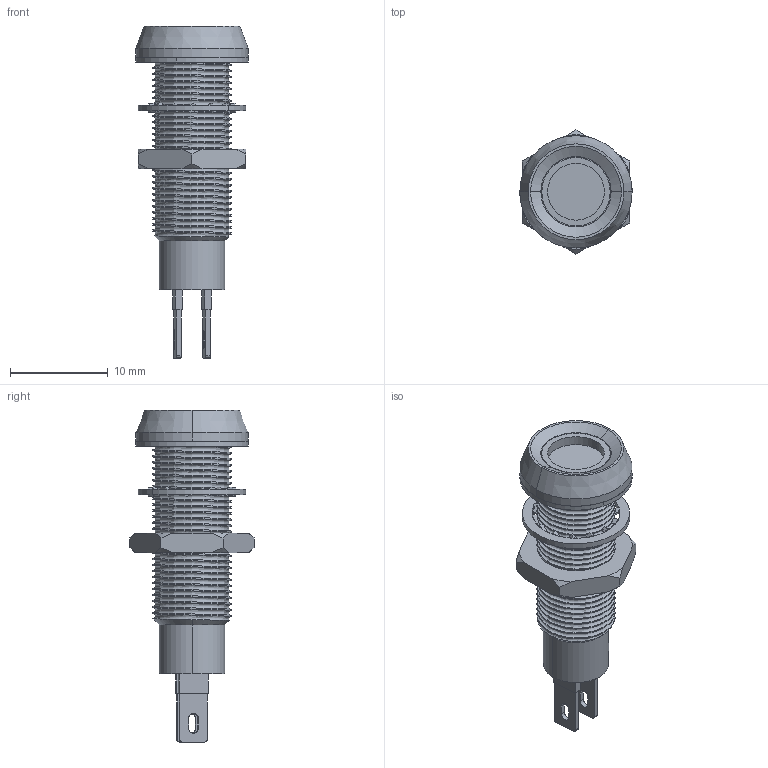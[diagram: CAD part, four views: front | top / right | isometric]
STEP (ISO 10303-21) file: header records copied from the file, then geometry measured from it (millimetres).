
FILE_DESCRIPTION (( 'STEP AP203' ), '1' );
FILE_NAME ('508 series.STEP', '2014-07-02T07:14:31', ( 'mark' ), ( '' ), 'SwSTEP 2.0', 'SolidWorks 2014', '' );
FILE_SCHEMA (( 'CONFIG_CONTROL_DESIGN' ));
Length unit declared in the file: millimetre
Products named in the file (8): com3324_tab missing; 508 series; COM2212; COM2236; COM3564_Threaded; COM3577; 7fs; PU1
Assembly tree (7 placements, depth 2):
  508 series
    COM2212
    COM2236
    COM3564_Threaded
    COM3577
    7fs
    PU1
    com3324_tab missing
Bounding box: 11.5 x 12.7 x 33.98 mm (x, y, z)
Volume: 736.7 mm3; surface area: 2368.6 mm2
Topology: 8 solids, 8 shells, 370 faces, 1032 edges, 684 vertices
Faces by surface type: plane 150, cylinder 137, bspline 57, cone 24, torus 2
Entity records: 16675 total; most frequent: CARTESIAN_POINT 7514, ORIENTED_EDGE 2064, DIRECTION 1402, EDGE_CURVE 1032, VERTEX_POINT 684, AXIS2_PLACEMENT_3D 477, VECTOR 448, LINE 448
